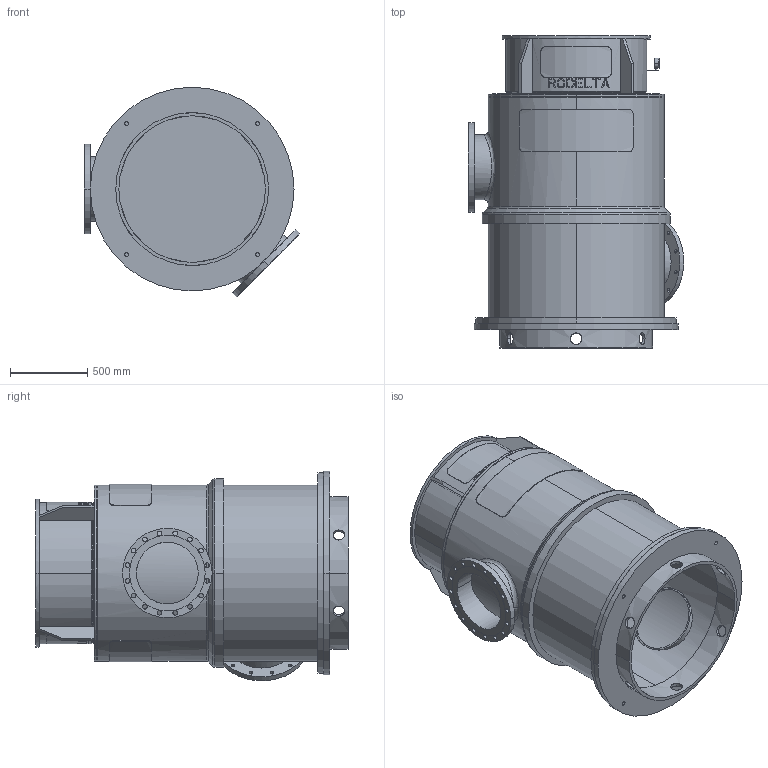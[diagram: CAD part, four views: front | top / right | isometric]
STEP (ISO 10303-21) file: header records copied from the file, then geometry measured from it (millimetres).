
FILE_DESCRIPTION((''),'2;1');
FILE_NAME('LS16_1TR_0GR_UPTO_90KW','2023-08-24T',('Lyritlocal'),(''),'PRO/ENGINEER BY PARAMETRIC TECHNOLOGY CORPORATION, 2016360','PRO/ENGINEER BY PARAMETRIC TECHNOLOGY CORPORATION, 2016360','');
FILE_SCHEMA(('CONFIG_CONTROL_DESIGN'));
Length unit declared in the file: millimetre
Products named in the file (1): LS16_1TR_0GR_UPTO_90KW
Bounding box: 1397.91 x 2022.5 x 1357.91 mm (x, y, z)
Volume: 170772731.2 mm3; surface area: 20216198 mm2
Topology: 3 solids, 3 shells, 564 faces, 1497 edges, 984 vertices
Faces by surface type: plane 346, cylinder 196, cone 14, bspline 4, torus 4
Entity records: 18951 total; most frequent: CARTESIAN_POINT 5129, ORIENTED_EDGE 2994, DIRECTION 2647, EDGE_CURVE 1497, AXIS2_PLACEMENT_3D 996, VERTEX_POINT 984, EDGE_LOOP 689, VECTOR 655
